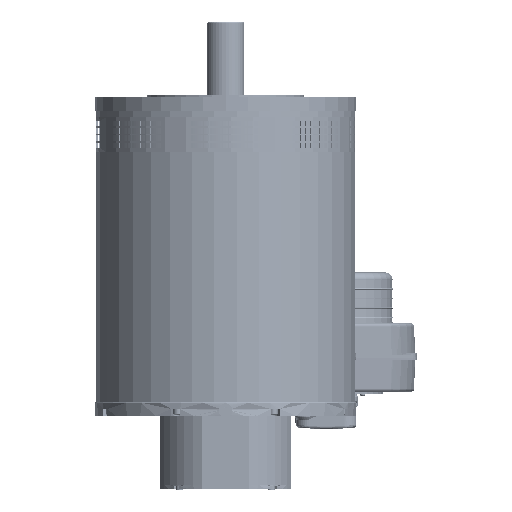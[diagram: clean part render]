
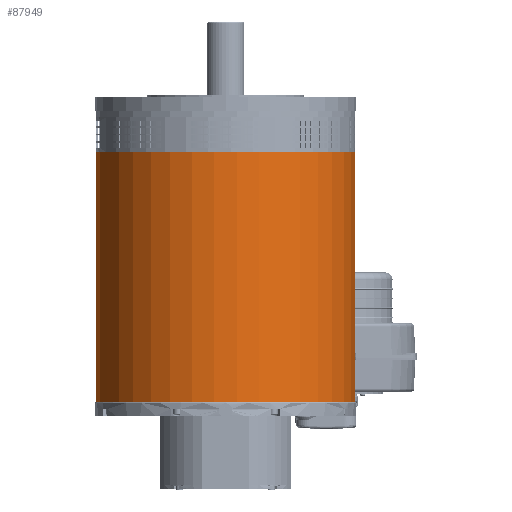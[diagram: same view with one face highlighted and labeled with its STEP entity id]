
A CAD part, front view. The second image highlights one B-rep face of the part: STEP entity #87949.
In plain terms, the highlighted cylindrical face has radius 190 mm (diameter 380 mm), a full revolution.
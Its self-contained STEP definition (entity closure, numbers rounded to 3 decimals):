
#2888=FACE_BOUND('',#16094,.T.);
#2889=FACE_BOUND('',#16095,.T.);
#2890=FACE_BOUND('',#16096,.T.);
#16094=EDGE_LOOP('',(#76319,#76320,#76321,#76322,#76323,#76324,#76325,#76326));
#16095=EDGE_LOOP('',(#76327));
#16096=EDGE_LOOP('',(#76328));
#17585=B_SPLINE_CURVE_WITH_KNOTS('',3,(#156435,#156436,#156437,#156438,
#156439,#156440,#156441,#156442,#156443,#156444),.UNSPECIFIED.,.F.,.F.,
(4,2,2,2,4),(0.762,0.956,1.15,1.338,
1.526),.UNSPECIFIED.);
#17586=B_SPLINE_CURVE_WITH_KNOTS('',3,(#156507,#156508,#156509,#156510,
#156511,#156512,#156513,#156514,#156515,#156516),.UNSPECIFIED.,.F.,.F.,
(4,2,2,2,4),(1.526,1.714,1.902,2.096,
2.29),.UNSPECIFIED.);
#17587=B_SPLINE_CURVE_WITH_KNOTS('',3,(#156522,#156523,#156524,#156525,
#156526,#156527,#156528,#156529,#156530,#156531),.UNSPECIFIED.,.F.,.F.,
(4,2,2,2,4),(-0.764,-0.57,-0.376,-0.188,
0.),.UNSPECIFIED.);
#17588=B_SPLINE_CURVE_WITH_KNOTS('',3,(#156538,#156539,#156540,#156541,
#156542,#156543,#156544,#156545,#156546,#156547),.UNSPECIFIED.,.F.,.F.,
(4,2,2,2,4),(0.,0.188,0.376,0.57,0.764),
 .UNSPECIFIED.);
#23379=LINE('',#156430,#29355);
#23411=LINE('',#156549,#29387);
#29355=VECTOR('',#120083,35.);
#29387=VECTOR('',#120197,35.);
#34093=CIRCLE('',#96922,190.);
#34094=CIRCLE('',#96958,190.);
#34119=CIRCLE('',#97019,190.);
#34120=CIRCLE('',#97021,190.);
#41797=VERTEX_POINT('',#156427);
#41798=VERTEX_POINT('',#156429);
#41799=VERTEX_POINT('',#156433);
#41800=VERTEX_POINT('',#156446);
#41801=VERTEX_POINT('',#156506);
#41802=VERTEX_POINT('',#156519);
#41803=VERTEX_POINT('',#156521);
#41804=VERTEX_POINT('',#156536);
#41829=VERTEX_POINT('',#156632);
#41830=VERTEX_POINT('',#156635);
#53484=EDGE_CURVE('',#41798,#41797,#23379,.T.);
#53487=EDGE_CURVE('',#41799,#41797,#17585,.T.);
#53489=EDGE_CURVE('',#41799,#41800,#34093,.T.);
#53514=EDGE_CURVE('',#41798,#41801,#17586,.T.);
#53517=EDGE_CURVE('',#41802,#41803,#17587,.T.);
#53519=EDGE_CURVE('',#41802,#41801,#34094,.T.);
#53521=EDGE_CURVE('',#41804,#41800,#17588,.T.);
#53522=EDGE_CURVE('',#41804,#41803,#23411,.T.);
#53547=EDGE_CURVE('',#41829,#41829,#34119,.T.);
#53548=EDGE_CURVE('',#41830,#41830,#34120,.T.);
#76319=ORIENTED_EDGE('',*,*,#53484,.T.);
#76320=ORIENTED_EDGE('',*,*,#53487,.F.);
#76321=ORIENTED_EDGE('',*,*,#53489,.T.);
#76322=ORIENTED_EDGE('',*,*,#53521,.F.);
#76323=ORIENTED_EDGE('',*,*,#53522,.T.);
#76324=ORIENTED_EDGE('',*,*,#53517,.F.);
#76325=ORIENTED_EDGE('',*,*,#53519,.T.);
#76326=ORIENTED_EDGE('',*,*,#53514,.F.);
#76327=ORIENTED_EDGE('',*,*,#53547,.T.);
#76328=ORIENTED_EDGE('',*,*,#53548,.F.);
#80554=CYLINDRICAL_SURFACE('',#97020,190.);
#87949=ADVANCED_FACE('',(#2888,#2889,#2890),#80554,.T.);
#96922=AXIS2_PLACEMENT_3D('',#156448,#120091,#120092);
#96958=AXIS2_PLACEMENT_3D('',#156534,#120190,#120191);
#97019=AXIS2_PLACEMENT_3D('',#156633,#120314,#120315);
#97020=AXIS2_PLACEMENT_3D('',#156634,#120316,#120317);
#97021=AXIS2_PLACEMENT_3D('',#156636,#120318,#120319);
#120083=DIRECTION('',(0.,0.,1.));
#120091=DIRECTION('center_axis',(0.,0.,1.));
#120092=DIRECTION('ref_axis',(0.707,0.707,0.));
#120190=DIRECTION('center_axis',(0.,0.,-1.));
#120191=DIRECTION('ref_axis',(0.707,0.707,0.));
#120197=DIRECTION('',(0.,0.,-1.));
#120314=DIRECTION('center_axis',(0.,0.,-1.));
#120315=DIRECTION('ref_axis',(0.707,-0.707,0.));
#120316=DIRECTION('center_axis',(0.,0.,-1.));
#120317=DIRECTION('ref_axis',(0.707,0.707,0.));
#120318=DIRECTION('center_axis',(0.,0.,-1.));
#120319=DIRECTION('ref_axis',(0.707,-0.707,0.));
#156427=CARTESIAN_POINT('',(163.409,96.941,-373.));
#156429=CARTESIAN_POINT('',(163.409,96.941,-408.));
#156430=CARTESIAN_POINT('',(163.409,96.941,-242.5));
#156433=CARTESIAN_POINT('',(160.725,101.328,-368.));
#156435=CARTESIAN_POINT('Ctrl Pts',(160.725,101.328,-368.));
#156436=CARTESIAN_POINT('Ctrl Pts',(161.07,100.782,-368.));
#156437=CARTESIAN_POINT('Ctrl Pts',(161.435,100.196,-368.126));
#156438=CARTESIAN_POINT('Ctrl Pts',(162.103,99.112,-368.642));
#156439=CARTESIAN_POINT('Ctrl Pts',(162.405,98.614,-369.031));
#156440=CARTESIAN_POINT('Ctrl Pts',(162.875,97.836,-369.923));
#156441=CARTESIAN_POINT('Ctrl Pts',(163.076,97.5,-370.481));
#156442=CARTESIAN_POINT('Ctrl Pts',(163.343,97.052,-371.705));
#156443=CARTESIAN_POINT('Ctrl Pts',(163.409,96.941,-372.373));
#156444=CARTESIAN_POINT('Ctrl Pts',(163.409,96.941,-373.));
#156446=CARTESIAN_POINT('',(101.328,160.725,-368.));
#156448=CARTESIAN_POINT('Origin',(0.,0.,-368.));
#156506=CARTESIAN_POINT('',(160.725,101.328,-413.));
#156507=CARTESIAN_POINT('Ctrl Pts',(163.409,96.941,-408.));
#156508=CARTESIAN_POINT('Ctrl Pts',(163.409,96.941,-408.627));
#156509=CARTESIAN_POINT('Ctrl Pts',(163.343,97.052,-409.295));
#156510=CARTESIAN_POINT('Ctrl Pts',(163.076,97.5,-410.519));
#156511=CARTESIAN_POINT('Ctrl Pts',(162.875,97.836,-411.077));
#156512=CARTESIAN_POINT('Ctrl Pts',(162.405,98.614,-411.969));
#156513=CARTESIAN_POINT('Ctrl Pts',(162.103,99.112,-412.358));
#156514=CARTESIAN_POINT('Ctrl Pts',(161.435,100.196,-412.874));
#156515=CARTESIAN_POINT('Ctrl Pts',(161.07,100.782,-413.));
#156516=CARTESIAN_POINT('Ctrl Pts',(160.725,101.328,-413.));
#156519=CARTESIAN_POINT('',(101.328,160.725,-413.));
#156521=CARTESIAN_POINT('',(96.941,163.409,-408.));
#156522=CARTESIAN_POINT('Ctrl Pts',(101.328,160.725,-413.));
#156523=CARTESIAN_POINT('Ctrl Pts',(100.782,161.07,-413.));
#156524=CARTESIAN_POINT('Ctrl Pts',(100.196,161.435,-412.874));
#156525=CARTESIAN_POINT('Ctrl Pts',(99.112,162.103,-412.358));
#156526=CARTESIAN_POINT('Ctrl Pts',(98.614,162.405,-411.969));
#156527=CARTESIAN_POINT('Ctrl Pts',(97.836,162.875,-411.077));
#156528=CARTESIAN_POINT('Ctrl Pts',(97.5,163.076,-410.519));
#156529=CARTESIAN_POINT('Ctrl Pts',(97.052,163.343,-409.295));
#156530=CARTESIAN_POINT('Ctrl Pts',(96.941,163.409,-408.627));
#156531=CARTESIAN_POINT('Ctrl Pts',(96.941,163.409,-408.));
#156534=CARTESIAN_POINT('Origin',(0.,0.,-413.));
#156536=CARTESIAN_POINT('',(96.941,163.409,-373.));
#156538=CARTESIAN_POINT('Ctrl Pts',(96.941,163.409,-373.));
#156539=CARTESIAN_POINT('Ctrl Pts',(96.941,163.409,-372.373));
#156540=CARTESIAN_POINT('Ctrl Pts',(97.052,163.343,-371.705));
#156541=CARTESIAN_POINT('Ctrl Pts',(97.5,163.076,-370.481));
#156542=CARTESIAN_POINT('Ctrl Pts',(97.836,162.875,-369.923));
#156543=CARTESIAN_POINT('Ctrl Pts',(98.614,162.405,-369.031));
#156544=CARTESIAN_POINT('Ctrl Pts',(99.112,162.103,-368.642));
#156545=CARTESIAN_POINT('Ctrl Pts',(100.196,161.435,-368.126));
#156546=CARTESIAN_POINT('Ctrl Pts',(100.782,161.07,-368.));
#156547=CARTESIAN_POINT('Ctrl Pts',(101.328,160.725,-368.));
#156549=CARTESIAN_POINT('',(96.941,163.409,-242.5));
#156632=CARTESIAN_POINT('',(134.35,134.35,-60.));
#156633=CARTESIAN_POINT('Origin',(0.,0.,-60.));
#156634=CARTESIAN_POINT('Origin',(0.,0.,-242.5));
#156635=CARTESIAN_POINT('',(134.35,134.35,-425.));
#156636=CARTESIAN_POINT('Origin',(0.,0.,-425.));
